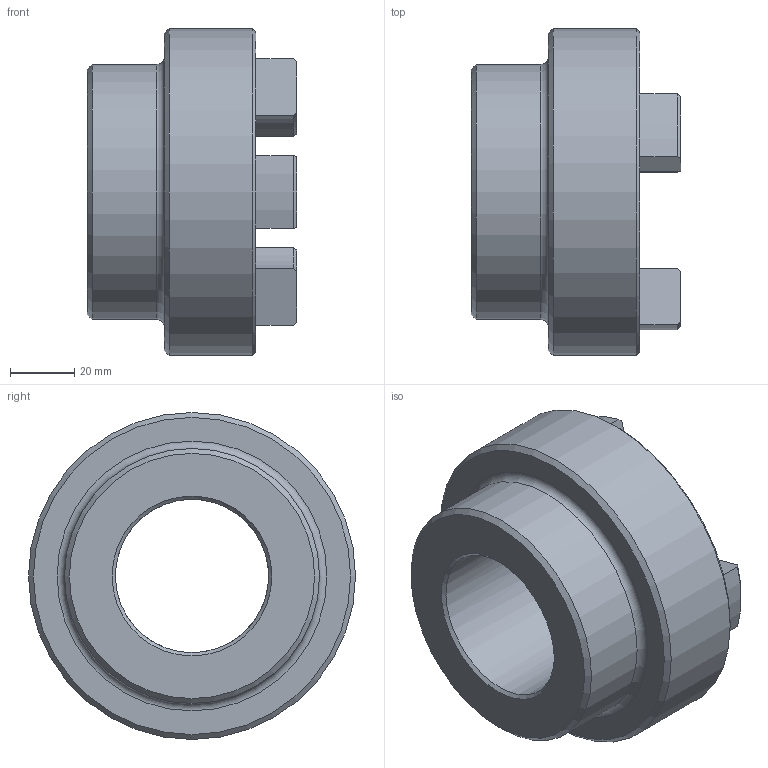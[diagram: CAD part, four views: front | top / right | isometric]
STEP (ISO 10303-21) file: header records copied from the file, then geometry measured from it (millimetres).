
FILE_DESCRIPTION (( 'STEP AP203' ), '1' );
FILE_NAME ('RC4.step', '2024-07-24T17:47:27', ( 'Adlan' ), ( '' ), 'SwSTEP 2.0', 'SolidWorks 2013', '' );
FILE_SCHEMA (( 'CONFIG_CONTROL_DESIGN' ));
Length unit declared in the file: inch
Products named in the file (1): RC4
Bounding box: 65.02 x 101.6 x 101.6 mm (x, y, z)
Volume: 212974.6 mm3; surface area: 40326.5 mm2
Topology: 1 solids, 1 shells, 62 faces, 155 edges, 96 vertices
Faces by surface type: cylinder 24, plane 15, torus 13, cone 10
Full cylindrical faces by diameter (mm): 47.638 x1, 79.248 x1, 101.6 x1
Entity records: 1953 total; most frequent: CARTESIAN_POINT 398, DIRECTION 332, ORIENTED_EDGE 290, EDGE_CURVE 145, AXIS2_PLACEMENT_3D 136, VERTEX_POINT 94, CIRCLE 73, EDGE_LOOP 73
